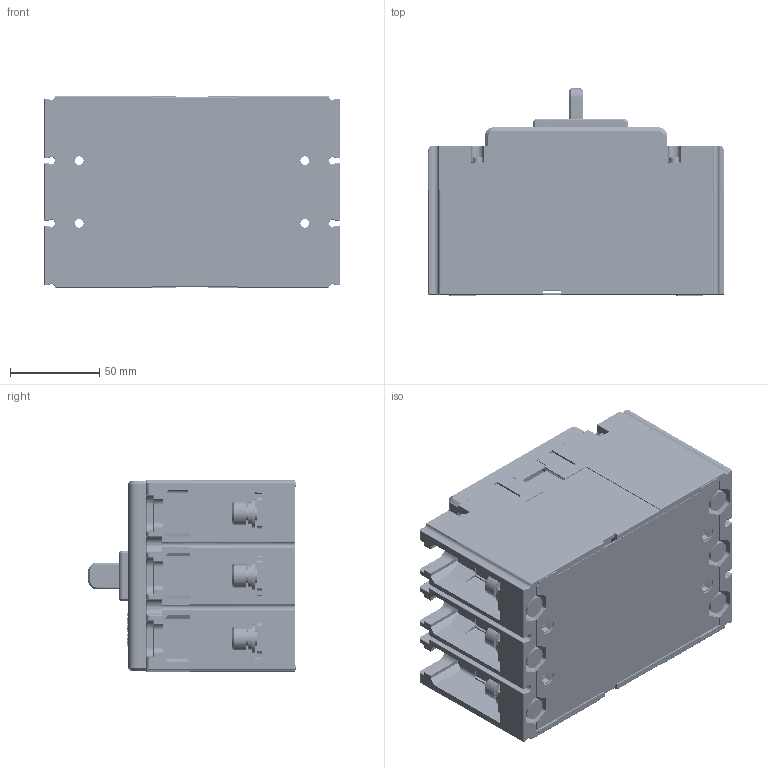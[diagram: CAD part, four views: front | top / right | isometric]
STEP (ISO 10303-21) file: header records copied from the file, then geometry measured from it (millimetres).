
FILE_DESCRIPTION((''),'2;1');
FILE_NAME('CDM6I-250M_H_3P_160A__ASM','2025-11-04T',('Administrator'),(''),'PRO/ENGINEER BY PARAMETRIC TECHNOLOGY CORPORATION, 2015440','PRO/ENGINEER BY PARAMETRIC TECHNOLOGY CORPORATION, 2015440','');
FILE_SCHEMA(('CONFIG_CONTROL_DESIGN'));
Products named in the file (32): JZ-5024044500_2_1_1; GB_T809-M3X12_8_1_1; 5024044500_ASM_2_ASM_1_ASM_1_ASM; 8940007200_8_1_1; 8253076600_8_1_1; 5253029200_ASM_9_ASM_1_ASM_1_ASM; 8750029700_5_1_1; 8751002100_5_1_1; GB_T70_1-M8X20_8_1_1; 7090200704_GB_T97_1_8_8_1_1; 7090370701K_GB_T93_8_8_1_1; 5850004100_ASM_9_ASM_1_ASM_1_ASM; GB_T809-M3X8_8_1_1; 5315050000_ASM_4_ASM_1_ASM_1_ASM; 8282018100_AF0_8_1_1; 8253077300_8_1_1; 5315051200_ASM_4_ASM_1_ASM_1_ASM; 8315095900_8_1_1; 7010100305R01_GB_T823_M3X10_8_1; 7090300201_GB_T93_3_8_1_1; GB_T97_4_3_8_1_1; 5850007700_ASM_8_ASM_1_ASM_1_ASM; 5315051400_ASM_5_ASM_1_ASM_1_ASM; 8742102700_5_1_1; 7030100225_GB_T9074_4-M3X30_8_1; CDM6H-250M_H_3300_1_ASM_1_ASM_1_ASM; ZG-5315076300_1; GB_T809-M3X8_1; 5315076300_ASM_1_ASM; CDM6H-250M_H_3300_1_ASM_ASM_1_ASM; 8585064200; CDM6I-250M_H_3P_160A__ASM
Assembly tree (69 placements, depth 7):
  CDM6I-250M_H_3P_160A__ASM
    CDM6H-250M_H_3300_1_ASM_ASM_1_ASM
      CDM6H-250M_H_3300_1_ASM_1_ASM_1_ASM
        5024044500_ASM_2_ASM_1_ASM_1_ASM
          JZ-5024044500_2_1_1
          GB_T809-M3X12_8_1_1  x8
        8940007200_8_1_1  x6
        5253029200_ASM_9_ASM_1_ASM_1_ASM
          8253076600_8_1_1
        8750029700_5_1_1  x3
        8751002100_5_1_1  x3
        5850004100_ASM_9_ASM_1_ASM_1_ASM  x6
          GB_T70_1-M8X20_8_1_1
          7090200704_GB_T97_1_8_8_1_1
          7090370701K_GB_T93_8_8_1_1
        5315051400_ASM_5_ASM_1_ASM_1_ASM
          5315051200_ASM_4_ASM_1_ASM_1_ASM
            5315050000_ASM_4_ASM_1_ASM_1_ASM
              GB_T809-M3X8_8_1_1  x4
            8282018100_AF0_8_1_1
            8253077300_8_1_1
          8315095900_8_1_1
          5850007700_ASM_8_ASM_1_ASM_1_ASM  x4
            7010100305R01_GB_T823_M3X10_8_1
            7090300201_GB_T93_3_8_1_1
            GB_T97_4_3_8_1_1
        8742102700_5_1_1
        7030100225_GB_T9074_4-M3X30_8_1  x4
      5315076300_ASM_1_ASM
        ZG-5315076300_1
        GB_T809-M3X8_1  x4
    8585064200  x6
Bounding box: 165 x 116 x 107 mm (x, y, z)
Volume: 1082173.2 mm3; surface area: 317801.9 mm2
Topology: 75 solids, 125 shells, 6191 faces, 16210 edges, 10183 vertices
Faces by surface type: plane 2907, cylinder 2113, torus 456, cone 280, sphere 193, bspline 121, extrusion 121
Entity records: 165816 total; most frequent: CARTESIAN_POINT 42181, DIRECTION 25872, ORIENTED_EDGE 25804, EDGE_CURVE 12918, AXIS2_PLACEMENT_3D 8865, VERTEX_POINT 8197, VECTOR 8142, LINE 8021
